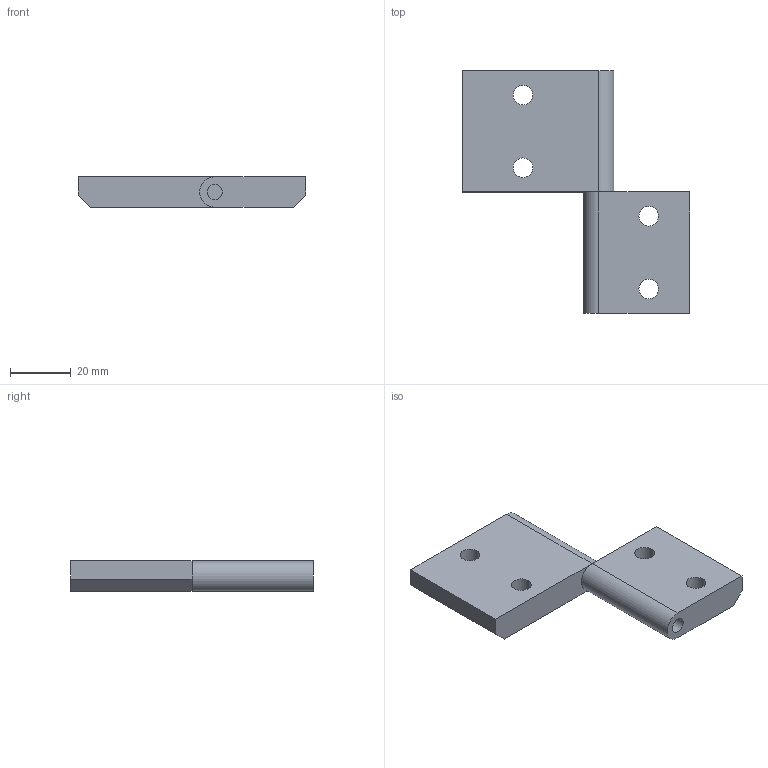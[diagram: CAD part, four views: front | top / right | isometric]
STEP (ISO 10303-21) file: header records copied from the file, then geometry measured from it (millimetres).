
FILE_DESCRIPTION((''),'2;1');
FILE_NAME('CEP3045S_ASM','2002-12-27T',('Lipro doo'),('Lipro d.o.o.'),'PRO/ENGINEER BY PARAMETRIC TECHNOLOGY CORPORATION, 2001150','PRO/ENGINEER BY PARAMETRIC TECHNOLOGY CORPORATION, 2001150','');
FILE_SCHEMA(('CONFIG_CONTROL_DESIGN'));
Length unit declared in the file: millimetre
Products named in the file (4): OS_FI5X60; CEP45_1; CEP30_1; CEP3045S_ASM
Assembly tree (3 placements, depth 2):
  CEP3045S_ASM
    OS_FI5X60
    CEP45_1
    CEP30_1
Bounding box: 75 x 80 x 10 mm (x, y, z)
Volume: 30300.9 mm3; surface area: 12108.8 mm2
Topology: 3 solids, 3 shells, 38 faces, 88 edges, 56 vertices
Faces by surface type: cylinder 16, plane 14, cone 8
Entity records: 1228 total; most frequent: DIRECTION 218, CARTESIAN_POINT 189, ORIENTED_EDGE 176, EDGE_CURVE 88, AXIS2_PLACEMENT_3D 85, VERTEX_POINT 56, EDGE_LOOP 50, VECTOR 48
